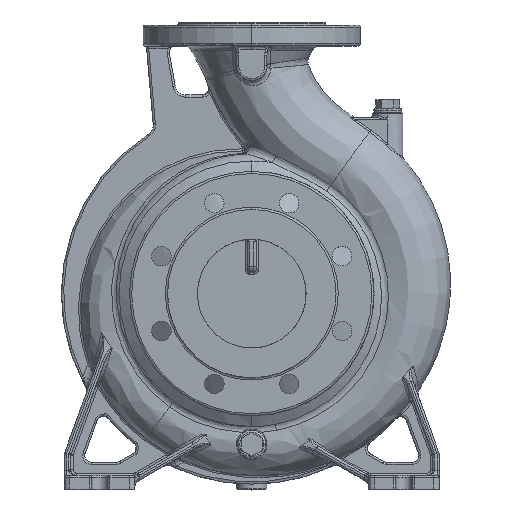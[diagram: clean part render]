
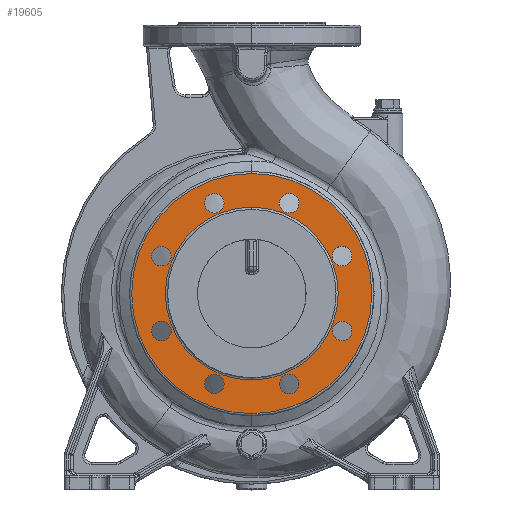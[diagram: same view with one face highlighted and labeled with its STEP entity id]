
A CAD part, top view. The second image highlights one B-rep face of the part: STEP entity #19605.
In plain terms, the highlighted planar face has unit normal (0, 0, 1).
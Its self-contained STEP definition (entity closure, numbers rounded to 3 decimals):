
#3099=CARTESIAN_POINT('',(0.,0.,122.));
#3100=DIRECTION('',(0.,0.,-1.));
#3101=DIRECTION('',(0.,-1.,0.));
#3102=AXIS2_PLACEMENT_3D('',#3099,#3100,#3101);
#3107=CARTESIAN_POINT('',(0.,0.,122.));
#3108=DIRECTION('',(0.,0.,-1.));
#3109=DIRECTION('',(0.,1.,0.));
#3110=AXIS2_PLACEMENT_3D('',#3107,#3108,#3109);
#3115=CARTESIAN_POINT('',(0.,0.,122.));
#3116=DIRECTION('',(0.,0.,1.));
#3117=DIRECTION('',(0.,1.,0.));
#3118=AXIS2_PLACEMENT_3D('',#3115,#3116,#3117);
#3123=CARTESIAN_POINT('',(0.,0.,122.));
#3124=DIRECTION('',(0.,0.,1.));
#3125=DIRECTION('',(0.,-1.,0.));
#3126=AXIS2_PLACEMENT_3D('',#3123,#3124,#3125);
#3131=CARTESIAN_POINT('',(-34.442,83.149,122.));
#3132=DIRECTION('',(0.,0.,1.));
#3133=DIRECTION('',(1.,0.,0.));
#3134=AXIS2_PLACEMENT_3D('',#3131,#3132,#3133);
#3139=CARTESIAN_POINT('',(-34.442,83.149,122.));
#3140=DIRECTION('',(0.,0.,1.));
#3141=DIRECTION('',(-1.,0.,0.));
#3142=AXIS2_PLACEMENT_3D('',#3139,#3140,#3141);
#3147=CARTESIAN_POINT('',(-83.149,34.442,122.));
#3148=DIRECTION('',(0.,0.,1.));
#3149=DIRECTION('',(0.707,0.707,0.));
#3150=AXIS2_PLACEMENT_3D('',#3147,#3148,#3149);
#3155=CARTESIAN_POINT('',(-83.149,34.442,122.));
#3156=DIRECTION('',(0.,0.,1.));
#3157=DIRECTION('',(-0.707,-0.707,0.));
#3158=AXIS2_PLACEMENT_3D('',#3155,#3156,#3157);
#3163=CARTESIAN_POINT('',(-83.149,-34.442,122.));
#3164=DIRECTION('',(0.,0.,1.));
#3165=DIRECTION('',(0.,1.,0.));
#3166=AXIS2_PLACEMENT_3D('',#3163,#3164,#3165);
#3171=CARTESIAN_POINT('',(-83.149,-34.442,122.));
#3172=DIRECTION('',(0.,0.,1.));
#3173=DIRECTION('',(0.,-1.,0.));
#3174=AXIS2_PLACEMENT_3D('',#3171,#3172,#3173);
#3179=CARTESIAN_POINT('',(-34.442,-83.149,122.));
#3180=DIRECTION('',(0.,0.,1.));
#3181=DIRECTION('',(-0.707,0.707,0.));
#3182=AXIS2_PLACEMENT_3D('',#3179,#3180,#3181);
#3187=CARTESIAN_POINT('',(-34.442,-83.149,122.));
#3188=DIRECTION('',(0.,0.,1.));
#3189=DIRECTION('',(0.707,-0.707,0.));
#3190=AXIS2_PLACEMENT_3D('',#3187,#3188,#3189);
#3195=CARTESIAN_POINT('',(34.442,-83.149,122.));
#3196=DIRECTION('',(0.,0.,1.));
#3197=DIRECTION('',(-1.,0.,0.));
#3198=AXIS2_PLACEMENT_3D('',#3195,#3196,#3197);
#3203=CARTESIAN_POINT('',(34.442,-83.149,122.));
#3204=DIRECTION('',(0.,0.,1.));
#3205=DIRECTION('',(1.,0.,0.));
#3206=AXIS2_PLACEMENT_3D('',#3203,#3204,#3205);
#3211=CARTESIAN_POINT('',(83.149,-34.442,122.));
#3212=DIRECTION('',(0.,0.,1.));
#3213=DIRECTION('',(-0.707,-0.707,0.));
#3214=AXIS2_PLACEMENT_3D('',#3211,#3212,#3213);
#3219=CARTESIAN_POINT('',(83.149,-34.442,122.));
#3220=DIRECTION('',(0.,0.,1.));
#3221=DIRECTION('',(0.707,0.707,0.));
#3222=AXIS2_PLACEMENT_3D('',#3219,#3220,#3221);
#3227=CARTESIAN_POINT('',(83.149,34.442,122.));
#3228=DIRECTION('',(0.,0.,1.));
#3229=DIRECTION('',(0.,-1.,0.));
#3230=AXIS2_PLACEMENT_3D('',#3227,#3228,#3229);
#3235=CARTESIAN_POINT('',(83.149,34.442,122.));
#3236=DIRECTION('',(0.,0.,1.));
#3237=DIRECTION('',(0.,1.,0.));
#3238=AXIS2_PLACEMENT_3D('',#3235,#3236,#3237);
#3243=CARTESIAN_POINT('',(34.442,83.149,122.));
#3244=DIRECTION('',(0.,0.,1.));
#3245=DIRECTION('',(0.707,-0.707,0.));
#3246=AXIS2_PLACEMENT_3D('',#3243,#3244,#3245);
#3251=CARTESIAN_POINT('',(34.442,83.149,122.));
#3252=DIRECTION('',(0.,0.,1.));
#3253=DIRECTION('',(-0.707,0.707,0.));
#3254=AXIS2_PLACEMENT_3D('',#3251,#3252,#3253);
#13950=CARTESIAN_POINT('',(0.,-79.5,122.));
#13951=CARTESIAN_POINT('',(0.,79.5,122.));
#13952=VERTEX_POINT('',#13950);
#13953=VERTEX_POINT('',#13951);
#13954=CARTESIAN_POINT('',(0.,110.5,122.));
#13955=CARTESIAN_POINT('',(0.,-110.5,122.));
#13956=VERTEX_POINT('',#13954);
#13957=VERTEX_POINT('',#13955);
#14022=CARTESIAN_POINT('',(-25.442,83.149,122.));
#14023=CARTESIAN_POINT('',(-43.442,83.149,122.));
#14024=VERTEX_POINT('',#14022);
#14025=VERTEX_POINT('',#14023);
#14030=CARTESIAN_POINT('',(-76.785,40.805,122.));
#14031=CARTESIAN_POINT('',(-89.513,28.078,122.));
#14032=VERTEX_POINT('',#14030);
#14033=VERTEX_POINT('',#14031);
#14038=CARTESIAN_POINT('',(-83.149,-25.442,122.));
#14039=CARTESIAN_POINT('',(-83.149,-43.442,122.));
#14040=VERTEX_POINT('',#14038);
#14041=VERTEX_POINT('',#14039);
#14046=CARTESIAN_POINT('',(-40.805,-76.785,122.));
#14047=CARTESIAN_POINT('',(-28.078,-89.513,122.));
#14048=VERTEX_POINT('',#14046);
#14049=VERTEX_POINT('',#14047);
#14054=CARTESIAN_POINT('',(25.442,-83.149,122.));
#14055=CARTESIAN_POINT('',(43.442,-83.149,122.));
#14056=VERTEX_POINT('',#14054);
#14057=VERTEX_POINT('',#14055);
#14062=CARTESIAN_POINT('',(76.785,-40.805,122.));
#14063=CARTESIAN_POINT('',(89.513,-28.078,122.));
#14064=VERTEX_POINT('',#14062);
#14065=VERTEX_POINT('',#14063);
#14070=CARTESIAN_POINT('',(83.149,25.442,122.));
#14071=CARTESIAN_POINT('',(83.149,43.442,122.));
#14072=VERTEX_POINT('',#14070);
#14073=VERTEX_POINT('',#14071);
#14078=CARTESIAN_POINT('',(40.805,76.785,122.));
#14079=CARTESIAN_POINT('',(28.078,89.513,122.));
#14080=VERTEX_POINT('',#14078);
#14081=VERTEX_POINT('',#14079);
#19541=CARTESIAN_POINT('',(0.,0.,122.));
#19542=DIRECTION('',(0.,0.,-1.));
#19543=DIRECTION('',(0.,-1.,0.));
#19544=AXIS2_PLACEMENT_3D('',#19541,#19542,#19543);
#19545=PLANE('',#19544);
#19547=ORIENTED_EDGE('',*,*,#19546,.F.);
#19549=ORIENTED_EDGE('',*,*,#19548,.F.);
#19550=EDGE_LOOP('',(#19547,#19549));
#19551=FACE_OUTER_BOUND('',#19550,.F.);
#19553=ORIENTED_EDGE('',*,*,#19552,.F.);
#19555=ORIENTED_EDGE('',*,*,#19554,.F.);
#19556=EDGE_LOOP('',(#19553,#19555));
#19557=FACE_BOUND('',#19556,.F.);
#19558=ORIENTED_EDGE('',*,*,#19531,.T.);
#19560=ORIENTED_EDGE('',*,*,#19559,.T.);
#19561=EDGE_LOOP('',(#19558,#19560));
#19562=FACE_BOUND('',#19561,.F.);
#19564=ORIENTED_EDGE('',*,*,#19563,.T.);
#19566=ORIENTED_EDGE('',*,*,#19565,.T.);
#19567=EDGE_LOOP('',(#19564,#19566));
#19568=FACE_BOUND('',#19567,.F.);
#19570=ORIENTED_EDGE('',*,*,#19569,.T.);
#19572=ORIENTED_EDGE('',*,*,#19571,.T.);
#19573=EDGE_LOOP('',(#19570,#19572));
#19574=FACE_BOUND('',#19573,.F.);
#19576=ORIENTED_EDGE('',*,*,#19575,.T.);
#19578=ORIENTED_EDGE('',*,*,#19577,.T.);
#19579=EDGE_LOOP('',(#19576,#19578));
#19580=FACE_BOUND('',#19579,.F.);
#19582=ORIENTED_EDGE('',*,*,#19581,.T.);
#19584=ORIENTED_EDGE('',*,*,#19583,.T.);
#19585=EDGE_LOOP('',(#19582,#19584));
#19586=FACE_BOUND('',#19585,.F.);
#19588=ORIENTED_EDGE('',*,*,#19587,.T.);
#19590=ORIENTED_EDGE('',*,*,#19589,.T.);
#19591=EDGE_LOOP('',(#19588,#19590));
#19592=FACE_BOUND('',#19591,.F.);
#19594=ORIENTED_EDGE('',*,*,#19593,.T.);
#19596=ORIENTED_EDGE('',*,*,#19595,.T.);
#19597=EDGE_LOOP('',(#19594,#19596));
#19598=FACE_BOUND('',#19597,.F.);
#19600=ORIENTED_EDGE('',*,*,#19599,.T.);
#19602=ORIENTED_EDGE('',*,*,#19601,.T.);
#19603=EDGE_LOOP('',(#19600,#19602));
#19604=FACE_BOUND('',#19603,.F.);
#3103=CIRCLE('',#3102,79.5);
#3111=CIRCLE('',#3110,79.5);
#3119=CIRCLE('',#3118,110.5);
#3127=CIRCLE('',#3126,110.5);
#3135=CIRCLE('',#3134,9.);
#3143=CIRCLE('',#3142,9.);
#3151=CIRCLE('',#3150,9.);
#3159=CIRCLE('',#3158,9.);
#3167=CIRCLE('',#3166,9.);
#3175=CIRCLE('',#3174,9.);
#3183=CIRCLE('',#3182,9.);
#3191=CIRCLE('',#3190,9.);
#3199=CIRCLE('',#3198,9.);
#3207=CIRCLE('',#3206,9.);
#3215=CIRCLE('',#3214,9.);
#3223=CIRCLE('',#3222,9.);
#3231=CIRCLE('',#3230,9.);
#3239=CIRCLE('',#3238,9.);
#3247=CIRCLE('',#3246,9.);
#3255=CIRCLE('',#3254,9.);
#19531=EDGE_CURVE('',#14024,#14025,#3135,.T.);
#19546=EDGE_CURVE('',#13956,#13957,#3119,.T.);
#19548=EDGE_CURVE('',#13957,#13956,#3127,.T.);
#19552=EDGE_CURVE('',#13952,#13953,#3103,.T.);
#19554=EDGE_CURVE('',#13953,#13952,#3111,.T.);
#19559=EDGE_CURVE('',#14025,#14024,#3143,.T.);
#19563=EDGE_CURVE('',#14032,#14033,#3151,.T.);
#19565=EDGE_CURVE('',#14033,#14032,#3159,.T.);
#19569=EDGE_CURVE('',#14040,#14041,#3167,.T.);
#19571=EDGE_CURVE('',#14041,#14040,#3175,.T.);
#19575=EDGE_CURVE('',#14048,#14049,#3183,.T.);
#19577=EDGE_CURVE('',#14049,#14048,#3191,.T.);
#19581=EDGE_CURVE('',#14056,#14057,#3199,.T.);
#19583=EDGE_CURVE('',#14057,#14056,#3207,.T.);
#19587=EDGE_CURVE('',#14064,#14065,#3215,.T.);
#19589=EDGE_CURVE('',#14065,#14064,#3223,.T.);
#19593=EDGE_CURVE('',#14072,#14073,#3231,.T.);
#19595=EDGE_CURVE('',#14073,#14072,#3239,.T.);
#19599=EDGE_CURVE('',#14080,#14081,#3247,.T.);
#19601=EDGE_CURVE('',#14081,#14080,#3255,.T.);
#19605=ADVANCED_FACE('',(#19551,#19557,#19562,#19568,#19574,#19580,#19586,
#19592,#19598,#19604),#19545,.F.);
